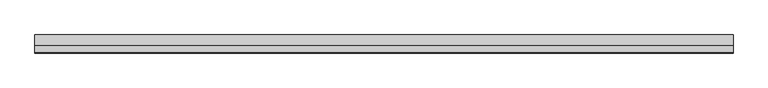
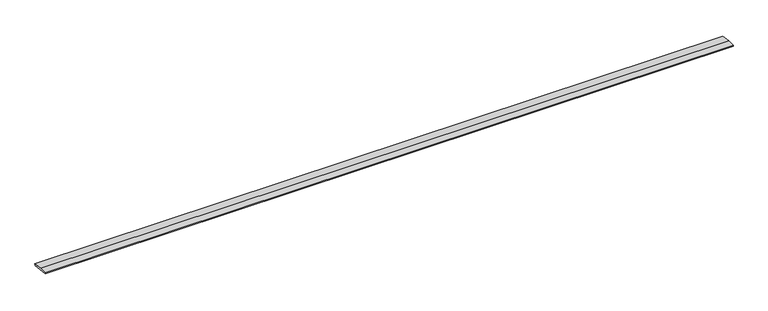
"""IFC4 building model written with IfcOpenShell, lengths in millimetres: beam geometry, weatherboad : weatherboad."""

from ifc_helpers import new_model, si_unit, frame, origin, place, context, project, spatial, polyline, outline, extrude, source, transform, mapped, element, save


def beam_597bee83(model_context):
    return source(origin(), model_context, "Body", "SweptSolid", [
        extrude(outline(polyline([(0.0, -9.143159), (1.1226388, 0.0), (79.0749747, 0.0), (180.9387048, -12.5072934), (178.6231873, -31.3656703), (0.0, -9.143159)])), frame((-3486.1782778, 0.0, 0.0), z_axis=(1.0, 0.0, 0.0), x_axis=(0.0, 1.0, 0.0)), (0.0, 0.0, 1.0), 6972.3565556),
    ])


if __name__ == "__main__":
    model = new_model("IFC4")
    model_context = context("Model", 3, world=origin())
    ifc_project = project(units=[si_unit("LENGTHUNIT", "METRE", prefix="MILLI")], contexts=[model_context])
    site = spatial("IfcSite", under=ifc_project)
    building = spatial("IfcBuilding", under=site)
    placement = place(None, origin())
    beam_shape = beam_597bee83(model_context)
    element("IfcBeam", 1, ObjectType="weatherboad : weatherboad", at=placement, inside=building, context=model_context, shape_type="MappedRepresentation", body=[
        mapped(beam_shape, transform((0.0, 0.0, 0.0), x_axis=(1.0, 0.0, 0.0), y_axis=(0.0, 1.0, 0.0), z_axis=(0.0, 0.0, 1.0))),
    ])
    save(model, "model.ifc")
